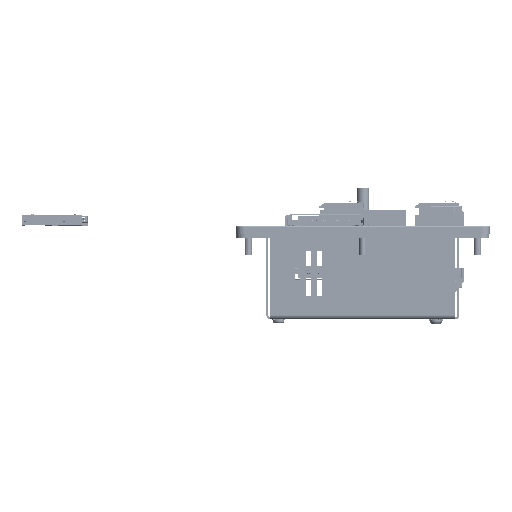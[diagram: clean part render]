
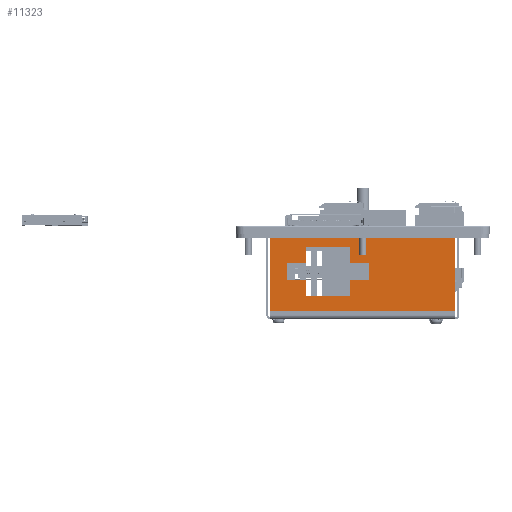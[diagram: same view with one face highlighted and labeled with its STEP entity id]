
A CAD part, left-side view. The second image highlights one B-rep face of the part: STEP entity #11323.
In plain terms, the highlighted planar face has unit normal (-1, 0, 0).
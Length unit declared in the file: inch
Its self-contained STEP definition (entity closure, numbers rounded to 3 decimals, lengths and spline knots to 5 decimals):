
#11323 = ADVANCED_FACE( '', ( #23980, #23981 ), #23982, .T. );
#23980 = FACE_BOUND( '', #39272, .T. );
#23981 = FACE_OUTER_BOUND( '', #39273, .T. );
#23982 = PLANE( '', #39274 );
#39272 = EDGE_LOOP( '', ( #75190, #75191, #75192, #75193, #75194, #75195, #75196, #75197, #75198, #75199, #75200, #75201 ) );
#39273 = EDGE_LOOP( '', ( #75202, #75203, #75204, #75205 ) );
#39274 = AXIS2_PLACEMENT_3D( '', #75206, #75207, #75208 );
#75190 = ORIENTED_EDGE( '', *, *, #100384, .T. );
#75191 = ORIENTED_EDGE( '', *, *, #92140, .T. );
#75192 = ORIENTED_EDGE( '', *, *, #93515, .T. );
#75193 = ORIENTED_EDGE( '', *, *, #100385, .T. );
#75194 = ORIENTED_EDGE( '', *, *, #95410, .T. );
#75195 = ORIENTED_EDGE( '', *, *, #99950, .T. );
#75196 = ORIENTED_EDGE( '', *, *, #100386, .T. );
#75197 = ORIENTED_EDGE( '', *, *, #100176, .T. );
#75198 = ORIENTED_EDGE( '', *, *, #100387, .T. );
#75199 = ORIENTED_EDGE( '', *, *, #95584, .T. );
#75200 = ORIENTED_EDGE( '', *, *, #100388, .T. );
#75201 = ORIENTED_EDGE( '', *, *, #99150, .T. );
#75202 = ORIENTED_EDGE( '', *, *, #100389, .T. );
#75203 = ORIENTED_EDGE( '', *, *, #88026, .T. );
#75204 = ORIENTED_EDGE( '', *, *, #99125, .F. );
#75205 = ORIENTED_EDGE( '', *, *, #85765, .T. );
#75206 = CARTESIAN_POINT( '', ( -3.02, -2.22, -0.04571 ) );
#75207 = DIRECTION( '', ( -1., 0., 0. ) );
#75208 = DIRECTION( '', ( 0., 0., 1. ) );
#85765 = EDGE_CURVE( '', #103241, #103238, #103242, .T. );
#88026 = EDGE_CURVE( '', #107355, #107356, #107357, .T. );
#92140 = EDGE_CURVE( '', #114266, #114264, #114267, .T. );
#93515 = EDGE_CURVE( '', #114264, #116379, #116381, .T. );
#95410 = EDGE_CURVE( '', #119185, #119183, #119186, .T. );
#95584 = EDGE_CURVE( '', #119431, #119429, #119432, .T. );
#99125 = EDGE_CURVE( '', #103241, #107356, #124118, .T. );
#99150 = EDGE_CURVE( '', #124146, #124144, #124147, .T. );
#99950 = EDGE_CURVE( '', #119183, #125103, #125105, .T. );
#100176 = EDGE_CURVE( '', #125367, #125365, #125368, .T. );
#100384 = EDGE_CURVE( '', #124144, #114266, #125603, .T. );
#100385 = EDGE_CURVE( '', #116379, #119185, #125604, .T. );
#100386 = EDGE_CURVE( '', #125103, #125367, #125605, .T. );
#100387 = EDGE_CURVE( '', #125365, #119431, #125606, .T. );
#100388 = EDGE_CURVE( '', #119429, #124146, #125607, .T. );
#100389 = EDGE_CURVE( '', #103238, #107355, #125608, .T. );
#103238 = VERTEX_POINT( '', #130806 );
#103241 = VERTEX_POINT( '', #130809 );
#103242 = LINE( '', #130810, #130811 );
#107355 = VERTEX_POINT( '', #136734 );
#107356 = VERTEX_POINT( '', #136735 );
#107357 = LINE( '', #136736, #136737 );
#114264 = VERTEX_POINT( '', #146806 );
#114266 = VERTEX_POINT( '', #146809 );
#114267 = LINE( '', #146810, #146811 );
#116379 = VERTEX_POINT( '', #149911 );
#116381 = LINE( '', #149914, #149915 );
#119183 = VERTEX_POINT( '', #153998 );
#119185 = VERTEX_POINT( '', #154001 );
#119186 = LINE( '', #154002, #154003 );
#119429 = VERTEX_POINT( '', #154353 );
#119431 = VERTEX_POINT( '', #154356 );
#119432 = LINE( '', #154357, #154358 );
#124118 = LINE( '', #161340, #161341 );
#124144 = VERTEX_POINT( '', #161379 );
#124146 = VERTEX_POINT( '', #161382 );
#124147 = LINE( '', #161383, #161384 );
#125103 = VERTEX_POINT( '', #162777 );
#125105 = LINE( '', #162780, #162781 );
#125365 = VERTEX_POINT( '', #163154 );
#125367 = VERTEX_POINT( '', #163157 );
#125368 = LINE( '', #163158, #163159 );
#125603 = LINE( '', #163498, #163499 );
#125604 = LINE( '', #163500, #163501 );
#125605 = LINE( '', #163502, #163503 );
#125606 = LINE( '', #163504, #163505 );
#125607 = LINE( '', #163506, #163507 );
#125608 = LINE( '', #163508, #163509 );
#130806 = CARTESIAN_POINT( '', ( -3.02, 2.1242, -0.0958 ) );
#130809 = CARTESIAN_POINT( '', ( -3.02, -2.1242, -0.0958 ) );
#130810 = CARTESIAN_POINT( '', ( -3.02, -2.22, -0.0958 ) );
#130811 = VECTOR( '', #166773, 39.37008 );
#136734 = CARTESIAN_POINT( '', ( -3.02, 2.1242, -1.9508 ) );
#136735 = CARTESIAN_POINT( '', ( -3.02, -2.1242, -1.9508 ) );
#136736 = CARTESIAN_POINT( '', ( -3.02, 2.22, -1.9508 ) );
#136737 = VECTOR( '', #169230, 39.37008 );
#146806 = CARTESIAN_POINT( '', ( -3.02, 1.2975, -1.6108 ) );
#146809 = CARTESIAN_POINT( '', ( -3.02, 0.2975, -1.6108 ) );
#146810 = CARTESIAN_POINT( '', ( -3.02, 1.2975, -1.6108 ) );
#146811 = VECTOR( '', #173351, 39.37008 );
#149911 = CARTESIAN_POINT( '', ( -3.02, 1.2975, -1.2358 ) );
#149914 = CARTESIAN_POINT( '', ( -3.02, 1.2975, -1.2358 ) );
#149915 = VECTOR( '', #174724, 39.37008 );
#153998 = CARTESIAN_POINT( '', ( -3.02, 1.74, -0.8608 ) );
#154001 = CARTESIAN_POINT( '', ( -3.02, 1.74, -1.2358 ) );
#154002 = CARTESIAN_POINT( '', ( -3.02, 1.74, -0.8608 ) );
#154003 = VECTOR( '', #176563, 39.37008 );
#154353 = CARTESIAN_POINT( '', ( -3.02, -0.145, -0.8608 ) );
#154356 = CARTESIAN_POINT( '', ( -3.02, 0.2975, -0.8608 ) );
#154357 = CARTESIAN_POINT( '', ( -3.02, -0.145, -0.8608 ) );
#154358 = VECTOR( '', #176732, 39.37008 );
#161340 = CARTESIAN_POINT( '', ( -3.02, -2.1242, -0.04571 ) );
#161341 = VECTOR( '', #179920, 39.37008 );
#161379 = CARTESIAN_POINT( '', ( -3.02, 0.2975, -1.2358 ) );
#161382 = CARTESIAN_POINT( '', ( -3.02, -0.145, -1.2358 ) );
#161383 = CARTESIAN_POINT( '', ( -3.02, 0.2975, -1.2358 ) );
#161384 = VECTOR( '', #179934, 39.37008 );
#162777 = CARTESIAN_POINT( '', ( -3.02, 1.2975, -0.8608 ) );
#162780 = CARTESIAN_POINT( '', ( -3.02, 1.2975, -0.8608 ) );
#162781 = VECTOR( '', #180558, 39.37008 );
#163154 = CARTESIAN_POINT( '', ( -3.02, 0.2975, -0.4858 ) );
#163157 = CARTESIAN_POINT( '', ( -3.02, 1.2975, -0.4858 ) );
#163158 = CARTESIAN_POINT( '', ( -3.02, 0.2975, -0.4858 ) );
#163159 = VECTOR( '', #180703, 39.37008 );
#163498 = CARTESIAN_POINT( '', ( -3.02, 0.2975, -1.6108 ) );
#163499 = VECTOR( '', #180835, 39.37008 );
#163500 = CARTESIAN_POINT( '', ( -3.02, 1.74, -1.2358 ) );
#163501 = VECTOR( '', #180836, 39.37008 );
#163502 = CARTESIAN_POINT( '', ( -3.02, 1.2975, -0.4858 ) );
#163503 = VECTOR( '', #180837, 39.37008 );
#163504 = CARTESIAN_POINT( '', ( -3.02, 0.2975, -0.8608 ) );
#163505 = VECTOR( '', #180838, 39.37008 );
#163506 = CARTESIAN_POINT( '', ( -3.02, -0.145, -1.2358 ) );
#163507 = VECTOR( '', #180839, 39.37008 );
#163508 = CARTESIAN_POINT( '', ( -3.02, 2.1242, -0.04571 ) );
#163509 = VECTOR( '', #180840, 39.37008 );
#166773 = DIRECTION( '', ( 0., 1., 0. ) );
#169230 = DIRECTION( '', ( 0., -1., 0. ) );
#173351 = DIRECTION( '', ( 0., 1., 0. ) );
#174724 = DIRECTION( '', ( 0., 0., 1. ) );
#176563 = DIRECTION( '', ( 0., 0., 1. ) );
#176732 = DIRECTION( '', ( 0., -1., 0. ) );
#179920 = DIRECTION( '', ( 0., 0., -1. ) );
#179934 = DIRECTION( '', ( 0., 1., 0. ) );
#180558 = DIRECTION( '', ( 0., -1., 0. ) );
#180703 = DIRECTION( '', ( 0., -1., 0. ) );
#180835 = DIRECTION( '', ( 0., 0., -1. ) );
#180836 = DIRECTION( '', ( 0., 1., 0. ) );
#180837 = DIRECTION( '', ( 0., 0., 1. ) );
#180838 = DIRECTION( '', ( 0., 0., -1. ) );
#180839 = DIRECTION( '', ( 0., 0., -1. ) );
#180840 = DIRECTION( '', ( 0., 0., -1. ) );
